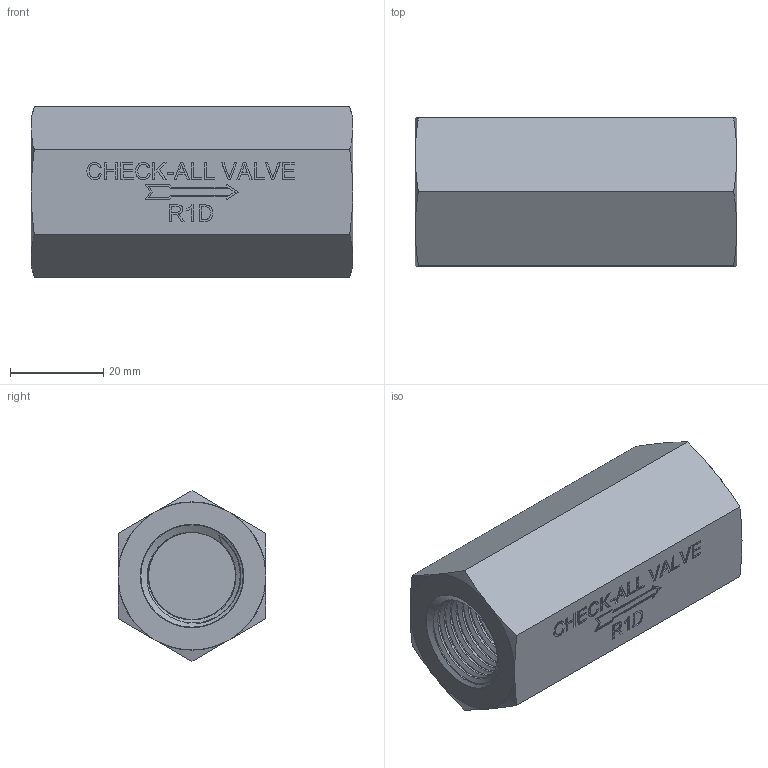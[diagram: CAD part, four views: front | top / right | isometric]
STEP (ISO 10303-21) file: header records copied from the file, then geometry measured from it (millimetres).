
FILE_DESCRIPTION( ( 'Unknown' ), '1' );
FILE_NAME( 'Y:/ENGR/3D Solid Edge Models/R1/stp/R1D.stp', 'Unknown', ( 'Unknown' ), ( 'Unknown' ), 'PSStep 16.0.42', 'Unknown', ' ' );
FILE_SCHEMA( ( 'AUTOMOTIVE_DESIGN { 1 0 10303 214 1 1 1 1 }' ) );
Length unit declared in the file: millimetre
Products named in the file (1): 1
Bounding box: 69.01 x 31.75 x 36.66 mm (x, y, z)
Volume: 50865.7 mm3; surface area: 12404.4 mm2
Topology: 1 solids, 1 shells, 255 faces, 672 edges, 420 vertices
Faces by surface type: extrusion 134, plane 57, bspline 34, cone 14, torus 14, cylinder 2
Entity records: 42777 total; most frequent: CARTESIAN_POINT 35215, ORIENTED_EDGE 1280, DIRECTION 748, EDGE_CURVE 640, VECTOR 460, VERTEX_POINT 416, B_SPLINE_CURVE_WITH_KNOTS 388, LINE 326
